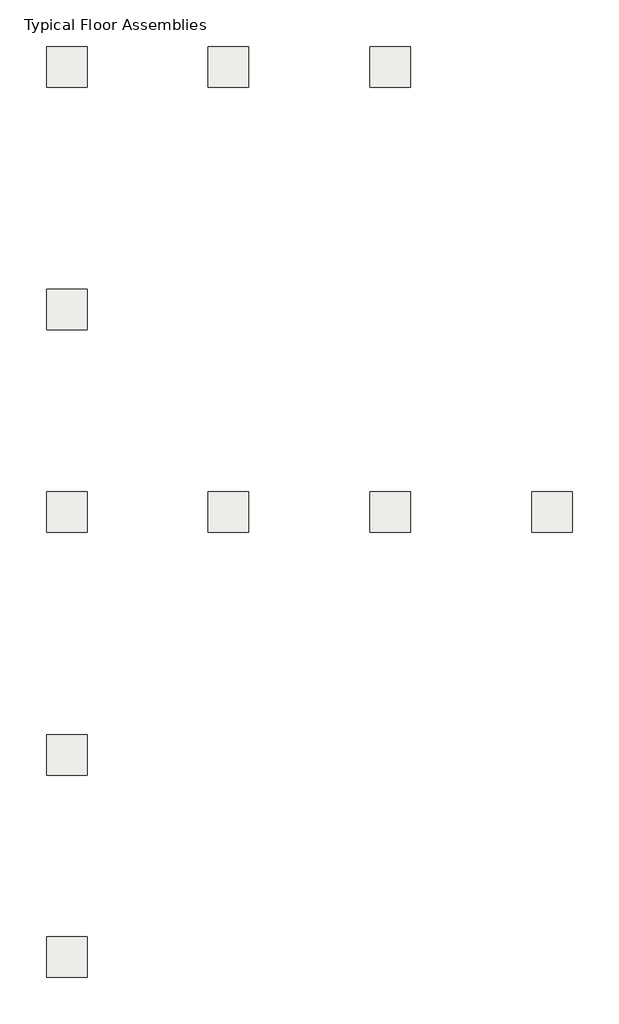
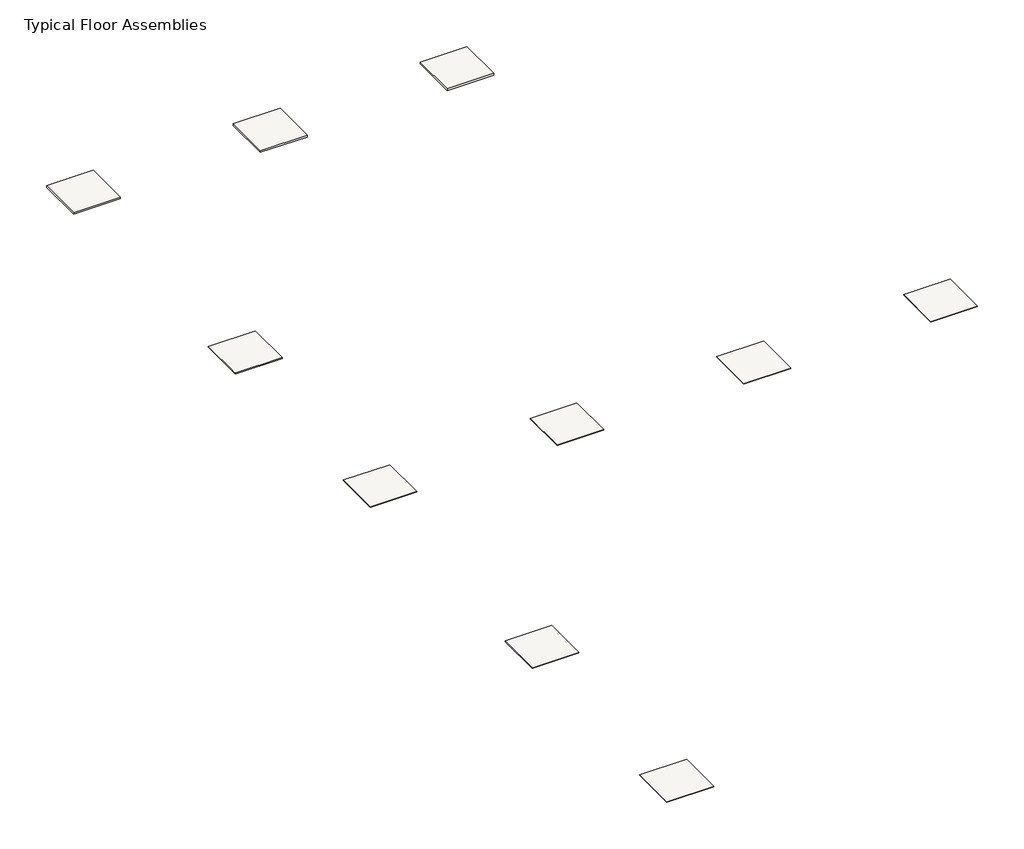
# One storey: 10 slabs.
"""IFC4 building model written with IfcOpenShell, lengths in millimetres."""

from ifc_helpers import new_model, si_unit, frame, origin, place, context, project, spatial, polyline, outline, extrude, element, save

model = new_model("IFC4")

# Units and contexts
model_context = context("Model", 3, world=origin())
ifc_project = project(units=[si_unit("LENGTHUNIT", "METRE", prefix="MILLI")], contexts=[model_context])

# Site, building, storey
site = spatial("IfcSite", under=ifc_project)
building = spatial("IfcBuilding", under=site)
storey = spatial("IfcBuildingStorey", under=building, Name="Typical Floor Assemblies", Elevation=3048.0)

# Slabs
placement = place(None, origin())
element("IfcSlab", 1, ObjectType="Noble Company_Chloraloy_4 ft over substrate as Specified", at=placement, inside=storey, context=model_context, shape_type="SweptSolid", body=[
    extrude(outline(polyline([(-19180.4886258, 10074.1772106), (-17656.4886258, 10074.1772106), (-17656.4886258, 8550.1772106), (-19180.4886258, 8550.1772106), (-19180.4886258, 10074.1772106)])), frame((0.0, 0.0, 2985.4524996), z_axis=(0.0, 0.0, 1.0), x_axis=(1.0, 0.0, 0.0)), (0.0, 0.0, 1.0), 62.5475004),
])
element("IfcSlab", 2, ObjectType="Noble Company_Chloraloy_5 ft over substrate as Specified", at=placement, inside=storey, context=model_context, shape_type="SweptSolid", body=[
    extrude(outline(polyline([(-13084.4886258, 10074.1772106), (-11560.4886258, 10074.1772106), (-11560.4886258, 8550.1772106), (-13084.4886258, 8550.1772106), (-13084.4886258, 10074.1772106)])), frame((0.0, 0.0, 2985.4524996), z_axis=(0.0, 0.0, 1.0), x_axis=(1.0, 0.0, 0.0)), (0.0, 0.0, 1.0), 62.5475004),
])
element("IfcSlab", 3, ObjectType="Noble Company_Chloraloy_6 ft over substrate as Specified", at=placement, inside=storey, context=model_context, shape_type="SweptSolid", body=[
    extrude(outline(polyline([(-6988.4886258, 10074.1772106), (-5464.4886258, 10074.1772106), (-5464.4886258, 8550.1772106), (-6988.4886258, 8550.1772106), (-6988.4886258, 10074.1772106)])), frame((0.0, 0.0, 2985.4524996), z_axis=(0.0, 0.0, 1.0), x_axis=(1.0, 0.0, 0.0)), (0.0, 0.0, 1.0), 62.5475004),
])
element("IfcSlab", 4, ObjectType="Noble Company_NobleDeck_6 ft over substrate as Specified", at=placement, inside=storey, context=model_context, shape_type="SweptSolid", body=[
    extrude(outline(polyline([(-19180.4886258, 930.1772106), (-17656.4886258, 930.1772106), (-17656.4886258, -593.8227894), (-19180.4886258, -593.8227894), (-19180.4886258, 930.1772106)])), frame((0.0, 0.0, 3021.964999), z_axis=(0.0, 0.0, 1.0), x_axis=(1.0, 0.0, 0.0)), (0.0, 0.0, 1.0), 26.035001),
])
element("IfcSlab", 5, ObjectType="Noble Company_NobleSeal-SIS_6 ft over substrate as Specified", at=placement, inside=storey, context=model_context, shape_type="SweptSolid", body=[
    extrude(outline(polyline([(-19180.4886258, -15833.8227894), (-17656.4886258, -15833.8227894), (-17656.4886258, -17357.8227894), (-19180.4886258, -17357.8227894), (-19180.4886258, -15833.8227894)])), frame((0.0, 0.0, 3019.4249991), z_axis=(0.0, 0.0, 1.0), x_axis=(1.0, 0.0, 0.0)), (0.0, 0.0, 1.0), 28.5750009),
])
element("IfcSlab", 6, ObjectType="Noble Company_NobleSeal-TS_5 ft over substrate as Specified", at=placement, inside=storey, context=model_context, shape_type="SweptSolid", body=[
    extrude(outline(polyline([(-19180.4886258, -23453.8227894), (-17656.4886258, -23453.8227894), (-17656.4886258, -24977.8227894), (-19180.4886258, -24977.8227894), (-19180.4886258, -23453.8227894)])), frame((0.0, 0.0, 3031.3629995), z_axis=(0.0, 0.0, 1.0), x_axis=(1.0, 0.0, 0.0)), (0.0, 0.0, 1.0), 16.6370005),
])
element("IfcSlab", 7, ObjectType="Noble Company_NobleSeal-CIS_2 ft over substrate as Specified", at=placement, inside=storey, context=model_context, shape_type="SweptSolid", body=[
    extrude(outline(polyline([(-19180.4886258, -6689.8227894), (-17656.4886258, -6689.8227894), (-17656.4886258, -8213.8227894), (-19180.4886258, -8213.8227894), (-19180.4886258, -6689.8227894)])), frame((0.0, 0.0, 3031.3629995), z_axis=(0.0, 0.0, 1.0), x_axis=(1.0, 0.0, 0.0)), (0.0, 0.0, 1.0), 16.6370005),
])
element("IfcSlab", 8, ObjectType="Noble Company_NobleSeal-CIS_3 ft over substrate as Specified", at=placement, inside=storey, context=model_context, shape_type="SweptSolid", body=[
    extrude(outline(polyline([(-13084.4886258, -6689.8227894), (-11560.4886258, -6689.8227894), (-11560.4886258, -8213.8227894), (-13084.4886258, -8213.8227894), (-13084.4886258, -6689.8227894)])), frame((0.0, 0.0, 3031.3629995), z_axis=(0.0, 0.0, 1.0), x_axis=(1.0, 0.0, 0.0)), (0.0, 0.0, 1.0), 16.6370005),
])
element("IfcSlab", 9, ObjectType="Noble Company_NobleSeal-CIS_4 ft over substrate as Specified", at=placement, inside=storey, context=model_context, shape_type="SweptSolid", body=[
    extrude(outline(polyline([(-6988.4886258, -6689.8227894), (-5464.4886258, -6689.8227894), (-5464.4886258, -8213.8227894), (-6988.4886258, -8213.8227894), (-6988.4886258, -6689.8227894)])), frame((0.0, 0.0, 3031.3629995), z_axis=(0.0, 0.0, 1.0), x_axis=(1.0, 0.0, 0.0)), (0.0, 0.0, 1.0), 16.6370005),
])
element("IfcSlab", 10, ObjectType="Noble Company_NobleSeal-CIS_6 ft over substrate as Specified", at=placement, inside=storey, context=model_context, shape_type="SweptSolid", body=[
    extrude(outline(polyline([(-892.4886258, -6689.8227894), (631.5113742, -6689.8227894), (631.5113742, -8213.8227894), (-892.4886258, -8213.8227894), (-892.4886258, -6689.8227894)])), frame((0.0, 0.0, 3031.3629995), z_axis=(0.0, 0.0, 1.0), x_axis=(1.0, 0.0, 0.0)), (0.0, 0.0, 1.0), 16.6370005),
])

save(model, "model.ifc")
